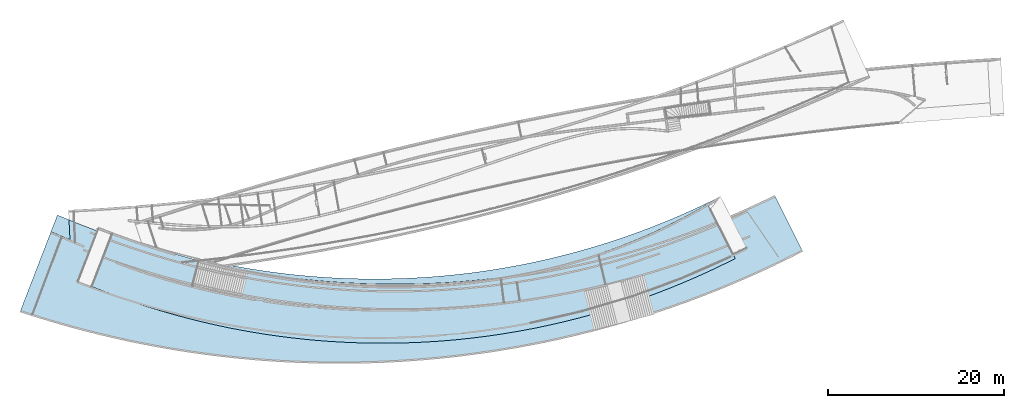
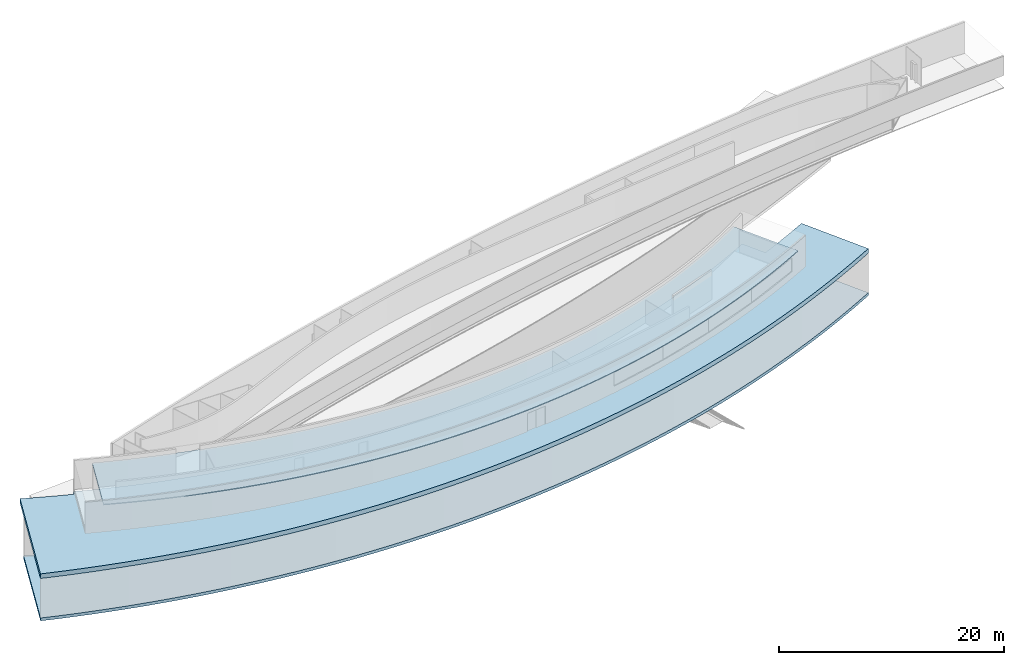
# Not in any storey, part 1 of 14: 3 slabs.
"""IFC2X3 model written with IfcOpenShell, lengths in millimetres."""

from ifc_helpers import new_model, entity, si_unit, converted_unit, point, direction, frame, frame_2d, origin_with_axes, place, context, project, spatial, polyline, circle_curve, trimmed, segment, composite_curve, outline, extrude, material, layer, layer_set, layer_usage, type_object, element, save


model = new_model("IFC2X3")

# Units and contexts
model_context = context("Model", 3, precision=1.0, world=origin_with_axes(), true_north=direction((0.0, 1.0)))
ifc_project = project(units=[si_unit("LENGTHUNIT", "METRE", prefix="MILLI"), converted_unit("PLANEANGLEUNIT", "DEGREE", entity("IfcRatioMeasure", 0.017453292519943), si_unit("PLANEANGLEUNIT", "RADIAN"), dimensions=[0, 0, 0, 0, 0, 0, 0])], contexts=[model_context])

# Site
site_placement = place(None, origin_with_axes())
site = spatial("IfcSite", under=ifc_project, at=site_placement, Name="Site", CompositionType="ELEMENT")

# Slabs
ifc_material_1 = material(Name="Slab layer 1")
ifc_layer_1 = layer(ifc_material_1, 100.0)
ifc_layer_set_1 = layer_set([ifc_layer_1], Name="HOKI slab")
ifc_layer_usage_1 = layer_usage(ifc_layer_set_1, "AXIS3", "POSITIVE", 0.0)
slab_type_1 = type_object("IfcSlabType", Name="HOKI slab", PredefinedType="FLOOR", material=ifc_layer_set_1)
slab_1_placement = place(site_placement, frame((-14063.8217207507, -7514.16167539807, 12350.0), z_axis=(0.0, 0.0, 1.0), x_axis=(0.360286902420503, 0.932841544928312, 0.0)))
element("IfcSlab", 1, at=slab_1_placement, inside=site, type_object=slab_type_1, material=ifc_layer_usage_1, ObjectType="HOKI slab", PredefinedType="FLOOR", context=model_context, shape_type="SweptSolid", body=[
    extrude(outline(composite_curve([segment(polyline([(-10458.3270371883, -33514.7553952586), (-16955.7582916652, -33514.7553952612)]), True, "CONTINUOUS"), segment(trimmed(circle_curve(frame_2d((71112.4195738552, -32088.0683738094), x_axis=(-0.999868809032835, -0.016197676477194)), 88079.7331308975), [point((-16955.7582916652, -33514.7553952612))], [point((12339.0505881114, 33514.7553952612))], False, "CARTESIAN"), True, "CONTINUOUS"), segment(polyline([(12339.0505881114, 33514.7553952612), (16967.3135570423, 28364.0818540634)]), True, "CONTINUOUS"), segment(polyline([(16967.3135570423, 28364.0818540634), (16541.683747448, 28026.2647282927), (16119.1963964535, 27684.9993166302), (15699.8018015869, 27340.2525765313), (15283.4502603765, 26991.9914654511), (14870.0920703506, 26640.1829408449), (14459.6775290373, 26284.793960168), (14052.1569339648, 25925.7914808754), (13647.4805826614, 25563.1424604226), (13240.2612243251, 25191.9019320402), (12836.4644827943, 24817.385396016), (12436.0400156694, 24439.5585375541), (12038.9374805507, 24058.3870418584), (11645.1065350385, 23673.8365941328), (11254.4968367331, 23285.8728795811), (10867.0580432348, 22894.4615834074), (10482.739812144, 22499.5683908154), (10107.1042689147, 22107.0674986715), (9734.93418778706, 21711.6614478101), (9366.1832446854, 21313.3175573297), (9000.80511553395, 20912.0031463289), (8638.75347625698, 20507.685533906), (8279.98200277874, 20100.3320391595), (7924.4443710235, 19689.9099811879), (7572.09425691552, 19276.3866790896), (7218.11723219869, 18853.987336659), (6867.80871181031, 18428.8996435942), (6521.1227234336, 18001.0898823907), (6178.01329475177, 17570.5243355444), (5838.43445344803, 17137.1692855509), (5502.34022720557, 16700.991014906), (5169.68464370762, 16261.9558061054), (4840.42173063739, 15820.0299416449), (4519.27695610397, 15381.7406202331), (4201.75362512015, 14941.1300742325), (3887.8102380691, 14498.1665008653), (3577.40529533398, 14052.8180973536), (3270.49729729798, 13605.0530609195), (2967.04474434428, 13154.8395887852), (2667.00613685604, 12702.1458781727), (2370.33997521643, 12246.9401263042), (2073.09324069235, 11783.0283992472), (1779.59307904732, 11317.0278490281), (1489.7991083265, 10848.9059831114), (1203.67094657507, 10378.6303089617), (921.16821183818, 9906.16833404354), (642.250522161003, 9431.48756582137), (366.8774955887, 8954.55551175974), (95.0087501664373, 8475.33967932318), (-169.686674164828, 8000.5144518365), (-430.747532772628, 7523.93270771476), (-688.209713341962, 7045.56397294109), (-942.10910355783, 6565.37777349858), (-1192.48159110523, 6083.34363537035), (-1439.36306366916, 5599.43108453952), (-1682.78940893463, 5113.60964698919), (-1922.79651458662, 4625.84884870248), (-2162.32529185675, 4130.04360438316), (-2398.16245813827, 3632.70775143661), (-2630.34223591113, 3133.81047886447), (-2858.89884765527, 2633.32097566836), (-3083.86651585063, 2131.20843084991), (-3305.27946297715, 1627.44203341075), (-3523.17191151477, 1121.9909723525), (-3737.57808394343, 614.824436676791), (-3945.93241502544, 112.238133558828), (-4150.74275804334, -391.596869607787), (-4352.03917292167, -896.709404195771), (-4549.851719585, -1403.12830157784), (-4744.21045795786, -1910.88239312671), (-4935.14544796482, -2420.00051021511), (-5122.68674953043, -2930.51148421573), (-5306.86442257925, -3442.44414650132), (-5489.61921267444, -3961.31696264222), (-5668.82646299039, -4481.23250371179), (-5844.5142623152, -5002.21959842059), (-6016.71069943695, -5524.30707547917), (-6185.44386314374, -6047.52376359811), (-6350.74184222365, -6571.89849148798), (-6512.63272546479, -7097.46008785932), (-6671.14460165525, -7624.23738142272), (-6824.71482613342, -8146.78904398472), (-6974.89532392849, -8670.15434305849), (-7121.71056155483, -9194.36027794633), (-7265.18500552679, -9719.43384795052), (-7405.34312235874, -10245.4020523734), (-7542.20937856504, -10772.2918905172), (-7675.80824066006, -11300.1303616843), (-7806.16417515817, -11828.9444651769), (-7934.36254911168, -12363.2517592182), (-8059.20662007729, -12898.1926416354), (-8180.71878222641, -13433.7938081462), (-8298.92142973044, -13970.0819544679), (-8413.83695676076, -14507.0837763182), (-8525.48775748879, -15044.8259694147), (-8633.89622608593, -15583.3352294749), (-8739.08475672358, -16122.6382522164), (-8840.28257299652, -16658.5017914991), (-8938.27639033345, -17194.8169239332), (-9033.08558674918, -17731.608738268), (-9124.72954025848, -18268.902323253), (-9213.22762887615, -18806.7227676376), (-9298.59923061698, -19345.0951601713), (-9380.86372349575, -19884.0445896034), (-9460.04048552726, -20423.5961446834), (-9536.58722938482, -20966.963604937), (-9609.99233586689, -21510.6295967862), (-9680.27315312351, -22054.6186583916), (-9747.44702930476, -22598.955327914), (-9811.53131256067, -23143.6641435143), (-9872.5433510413, -23688.7696433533), (-9930.50049289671, -24234.2963655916), (-9985.42008627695, -24780.2688483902), (-10037.059583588, -25323.9088211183), (-10085.6897217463, -25867.7032818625), (-10131.325404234, -26411.6754234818), (-10173.9815345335, -26955.8484388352), (-10213.673016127, -27500.2455207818), (-10250.4147524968, -28044.8898621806), (-10284.221647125, -28589.8046558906), (-10315.108603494, -29135.0130947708), (-10343.1719334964, -29682.2298752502), (-10368.3069486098, -30229.4734256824), (-10390.5262311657, -30776.7662192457), (-10409.8423634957, -31324.130729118), (-10426.2679279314, -31871.5894284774), (-10439.8155068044, -32419.164790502), (-10450.4976824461, -32966.8792883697), (-10458.3270371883, -33514.7553952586)]), True, "CONTINUOUS")], self_intersect="UNKNOWN")), frame((0.0, 0.0, 0.0), z_axis=(0.0, 0.0, -1.0), x_axis=(1.0, 0.0, 0.0)), (0.0, 0.0, -1.0), 100.0),
])
ifc_material_2 = material(Name="Slab layer 1")
ifc_layer_2 = layer(ifc_material_2, 500.0)
ifc_layer_set_2 = layer_set([ifc_layer_2], Name="HOKI 1FB UP")
ifc_layer_usage_2 = layer_usage(ifc_layer_set_2, "AXIS3", "POSITIVE", 0.0)
slab_type_2 = type_object("IfcSlabType", Name="HOKI 1FB UP", PredefinedType="FLOOR", material=ifc_layer_set_2)
slab_2_placement = place(site_placement, frame((-16891.8602213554, -7138.27778592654, 8999.99890100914), z_axis=(0.0, 0.0, 1.0), x_axis=(-0.896421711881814, -0.443202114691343, 0.0)))
element("IfcSlab", 2, at=slab_2_placement, inside=site, type_object=slab_type_2, material=ifc_layer_usage_2, ObjectType="HOKI 1FB UP", PredefinedType="FLOOR", context=model_context, shape_type="SweptSolid", body=[
    extrude(outline(composite_curve([segment(polyline([(29417.524967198, 16993.4711116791), (29113.0791956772, 17273.1666766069)]), True, "CONTINUOUS"), segment(trimmed(circle_curve(frame_2d((-34954.2730125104, 76132.1029652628), x_axis=(0.736406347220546, -0.676539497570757)), 87000.0000000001), [point((29113.0791956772, 17273.1666766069))], [point((-35751.3160399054, -10864.2459375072))], False, "CARTESIAN"), True, "CONTINUOUS"), segment(polyline([(-35751.3160399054, -10864.2459375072), (-35780.3892998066, -13334.4281621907)]), True, "CONTINUOUS"), segment(polyline([(-35780.3892998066, -13334.4281621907), (-36471.9214868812, -13371.3644718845), (-37163.4365010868, -13403.3711048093), (-37854.9867978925, -13430.4495538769), (-38546.6248327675, -13452.6013119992), (-39238.4030611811, -13469.8278720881), (-39930.3739386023, -13482.1307270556), (-40622.5899205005, -13489.5113698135), (-41315.1034623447, -13491.9712932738)]), True, "CONTINUOUS"), segment(polyline([(-41315.1034623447, -13491.9712932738), (-41351.0991119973, -20597.4717176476)]), True, "CONTINUOUS"), segment(polyline([(-41351.0991119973, -20597.4717176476), (-40639.0306437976, -20606.3051478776), (-39927.1253084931, -20610.7351467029), (-39215.3423035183, -20610.7613329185), (-38503.6408263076, -20606.3833253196), (-37791.9800742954, -20597.6007427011), (-37080.3192449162, -20584.4132038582), (-36368.6175356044, -20566.8203275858), (-35656.8341437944, -20544.8217326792), (-34938.9526639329, -20518.1747786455), (-34221.4606801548, -20487.0605764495), (-33504.3163780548, -20451.4766580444), (-32787.477943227, -20411.4205553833), (-32070.9035612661, -20366.8898004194), (-31354.5514177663, -20317.8819251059), (-30638.3796983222, -20264.394461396), (-29922.3465885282, -20206.4249412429), (-29212.3807398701, -20144.5081990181), (-28503.0152492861, -20078.2193637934), (-27794.2094612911, -20007.5539999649), (-27085.9227203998, -19932.5076719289), (-26378.114371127, -19853.0759440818), (-25670.7437579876, -19769.2543808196), (-24963.7702254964, -19681.0385465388), (-24257.1531181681, -19588.4240056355), (-23546.7255373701, -19490.8244436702), (-22837.1256171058, -19388.8339202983), (-22128.3122138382, -19282.4458657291), (-21420.2441840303, -19171.6537101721), (-20712.8803841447, -19056.4508838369), (-20006.1796706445, -18936.8308169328), (-19300.1008999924, -18812.7869396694), (-18594.6029286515, -18684.3126822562), (-17892.6795349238, -18551.9812895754), (-17191.7923893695, -18415.3393996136), (-16491.9012029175, -18274.3785062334), (-15792.9656864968, -18129.0901032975), (-15094.9455510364, -17979.4656846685), (-14397.8005074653, -17825.4967442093), (-13701.4902667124, -17667.1747757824), (-13005.9745397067, -17504.4912732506), (-12308.8952296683, -17336.8707065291), (-11613.0748942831, -17164.9648506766), (-10918.4732710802, -16988.763089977), (-10225.050097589, -16808.2548087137), (-9532.76511133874, -16623.4293911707), (-8841.57804985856, -16434.2762216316), (-8151.44865067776, -16240.7846843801), (-7462.33665132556, -16042.9441636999), (-6776.52181886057, -15841.4314065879), (-6092.16834362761, -15635.7263008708), (-5409.23689489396, -15425.8163546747), (-4727.68814192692, -15211.6890761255), (-4047.48275399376, -14993.3319733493), (-3368.58140036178, -14770.732554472), (-2690.94475029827, -14543.8783276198), (-2014.53347307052, -14312.7568009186), (-1338.73429452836, -14077.1512269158), (-664.60720053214, -13837.4209424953), (7.88661415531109, -13593.5514642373), (678.785954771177, -13345.5283087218), (1348.12962655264, -13093.3369925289), (2015.95643473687, -12836.9630322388), (2682.30518456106, -12576.3919444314), (3347.21468126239, -12311.6092456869), (4010.46846312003, -12042.7026469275), (4671.84719378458, -11769.7595349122), (5331.38891103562, -11492.7635157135), (5989.13165265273, -11211.6981954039), (6645.11345641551, -10926.5471800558), (7299.37236010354, -10637.2940757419), (7951.94640149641, -10343.9224885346), (8602.87361837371, -10046.4160245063), (9251.14013905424, -9745.24867244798), (9897.33866070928, -9440.15259241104), (10541.5062224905, -9131.10958902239), (11183.6798635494, -8818.10146690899), (11823.8966230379, -8501.11003069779), (12462.1935401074, -8180.11708501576), (13098.6076539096, -7855.10443448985), (13733.1760035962, -7526.053883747), (14367.2559744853, -7192.24460149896), (14999.0637368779, -6854.59543946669), (15628.6356482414, -6513.08623482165), (16256.0080660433, -6167.69682473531), (16881.217347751, -5818.40704637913), (17504.2998508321, -5465.19673692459), (18125.2919327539, -5108.04573354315), (18744.229950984, -4746.93387340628), (19358.6281886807, -4383.34169123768), (19970.5848705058, -4016.0545542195), (20580.1349165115, -3645.05076115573), (21187.3132467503, -3270.30861085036), (21792.1547812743, -2891.80640210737), (22394.6944401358, -2509.52243373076), (22994.9671433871, -2123.43500452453), (23593.0078110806, -1733.52241329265), (24191.5779548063, -1337.94646568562), (24787.4992490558, -938.766267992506), (25380.8059980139, -535.958059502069), (25971.5325058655, -129.498079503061), (26559.7130767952, 280.637432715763), (27145.382014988, 694.472237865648), (27728.5736246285, 1112.03009665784), (28309.3222099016, 1533.33476980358), (28883.8644986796, 1955.60331754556), (29455.617641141, 2381.29772698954), (30024.6141087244, 2810.44296453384), (30590.8863728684, 3243.06399657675), (31154.4669050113, 3679.18578951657), (31715.3881765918, 4118.83330975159), (32273.6826590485, 4562.03152368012), (32829.3828238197, 5008.80539770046), (33386.4430426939, 5462.39613394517), (33940.5020903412, 5919.31864436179), (34491.5918627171, 6379.60007932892), (35039.7442557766, 6843.26758922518), (35584.9911654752, 7310.34832442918), (36127.364487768, 7780.86943531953), (36666.8961186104, 8254.85807227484), (37203.6179539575, 8732.34138567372), (37732.7209229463, 9208.96123632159), (38258.7164991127, 9688.7053235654), (38781.6344039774, 10171.6016042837), (39301.5043590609, 10657.678035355), (39818.356085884, 11146.9625736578), (40332.2193059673, 11639.4831760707), (40843.1237408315, 12135.2677994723), (41351.0991119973, 12634.3444007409)]), True, "CONTINUOUS"), segment(polyline([(41351.0991119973, 12634.3444007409), (32667.7548995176, 20611.2988181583)]), True, "CONTINUOUS"), segment(polyline([(32667.7548995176, 20611.2988181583), (32271.288350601, 20150.0877995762), (31872.0658600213, 19691.4961444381), (31470.0636568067, 19235.4973932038), (31065.2579699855, 18782.065086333), (30657.6250285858, 18331.1727642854), (30247.1410616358, 17882.7939675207), (29833.7822981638, 17436.9022364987), (29417.524967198, 16993.4711116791)]), True, "CONTINUOUS")], self_intersect="UNKNOWN")), frame((0.0, 0.0, 0.0), z_axis=(0.0, -8.54612e-08, -0.999999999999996), x_axis=(1.0, 0.0, 0.0)), (0.0, 8.54612e-08, -0.999999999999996), 500.000000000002),
])
ifc_material_3 = material(Name="Slab layer 1")
ifc_layer_3 = layer(ifc_material_3, 320.0)
ifc_layer_set_3 = layer_set([ifc_layer_3], Name="HOKI 1FB")
ifc_layer_usage_3 = layer_usage(ifc_layer_set_3, "AXIS3", "POSITIVE", 0.0)
slab_type_3 = type_object("IfcSlabType", Name="HOKI 1FB", PredefinedType="FLOOR", material=ifc_layer_set_3)
slab_3_placement = place(site_placement, frame((-14265.9949990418, -8477.71334650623, 4400.0), z_axis=(0.0, 0.0, 1.0), x_axis=(-0.360305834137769, -0.932834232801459, 0.0)))
element("IfcSlab", 3, at=slab_3_placement, inside=site, type_object=slab_type_3, material=ifc_layer_usage_3, ObjectType="HOKI 1FB", PredefinedType="FLOOR", context=model_context, shape_type="SweptSolid", body=[
    extrude(outline(composite_curve([segment(polyline([(11851.7903827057, -40211.2343276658), (11918.783722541, -37867.5378411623)]), True, "CONTINUOUS"), segment(polyline([(11918.783722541, -37867.5378411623), (9850.78603564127, -38786.880040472)]), True, "CONTINUOUS"), segment(polyline([(9850.78603564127, -38786.880040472), (9862.46256828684, -38143.8529561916), (9869.89007350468, -37500.9731456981), (9873.06833784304, -36858.198561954), (9871.99714785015, -36215.4871579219), (9866.67629007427, -35572.7968865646), (9857.10555106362, -34930.0857008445), (9843.28471736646, -34287.3115537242), (9825.21357553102, -33644.4323981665), (9802.65977186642, -32995.3622092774), (9775.78707043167, -32346.6733089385), (9744.59295672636, -31698.3224709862), (9709.07491625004, -31050.2664692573), (9669.23043450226, -30402.4620775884), (9625.0569969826, -29754.8660698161), (9576.5520891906, -29107.435219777), (9523.71319662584, -28460.1263013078), (9467.14675237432, -27819.5650806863), (9406.37186757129, -27179.6006823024), (9341.38387697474, -26540.1913336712), (9272.17811534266, -25901.2952623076), (9198.74991743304, -25262.8706957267), (9121.09461800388, -24624.8758614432), (9039.20755181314, -23987.2689869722), (8953.08405361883, -23350.0082998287), (8862.11861098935, -22708.9308619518), (8766.92458242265, -22068.6847216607), (8667.49495161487, -21429.2275480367), (8563.82270226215, -20790.517010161), (8455.90081806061, -20152.5107771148), (8343.72228270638, -19515.1665179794), (8227.28007989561, -18878.441901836), (8106.56719332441, -18242.2945977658), (7982.22255951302, -17609.9224303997), (7853.73813251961, -16978.5944100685), (7721.10478797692, -16348.269220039), (7584.31340151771, -15718.9055435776), (7443.3548487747, -15090.462063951), (7298.22000538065, -14462.8974644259), (7148.8997469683, -13836.1704282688), (6995.38494917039, -13210.2396387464), (6837.08703225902, -12582.807569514), (6674.67757158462, -11956.6485439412), (6508.14512588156, -11331.7212906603), (6337.47825388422, -10707.9845383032), (6162.66551432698, -10085.3970155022), (5983.69546594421, -9463.9174508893), (5800.55666747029, -8843.50457309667), (5613.2376776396, -8224.11711075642), (5422.31805820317, -7607.60770503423), (5227.38133377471, -6992.57970171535), (5028.41399509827, -6378.99281336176), (4825.40253291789, -5766.80675253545), (4618.33343797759, -5155.9812317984), (4407.19320102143, -4546.4759637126), (4191.96831279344, -3938.25066084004), (3972.64526403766, -3331.2650357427), (3749.03321990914, -2725.00932145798), (3521.47880057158, -2120.45030030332), (3289.96632207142, -1517.54831385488), (3054.48010045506, -916.263703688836), (2815.00445176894, -316.556811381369), (2571.52369205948, 281.612021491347), (2324.0221373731, 878.282453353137), (2072.48410375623, 1473.49414262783), (1816.95475428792, 2067.1409872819), (1557.57716699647, 2658.88346706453), (1294.33356482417, 3248.76037485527), (1027.20617071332, 3836.81050353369), (756.177207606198, 4423.07264597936), (481.228898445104, 5007.58559507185), (202.343466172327, 5590.38814369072), (-80.4968662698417, 6171.51908471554), (-366.721892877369, 6749.83393915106), (-656.676813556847, 7326.04988451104), (-950.381343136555, 7900.20453475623), (-1247.85519644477, 8472.33550384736), (-1549.11808830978, 9042.48040574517), (-1854.18973355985, 9610.67685441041), (-2163.08984702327, 10176.9624638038), (-2475.83814352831, 10741.3748478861), (-2793.27887668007, 11305.4008414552), (-3114.35448920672, 11867.1186527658), (-3439.08686203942, 12426.565127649), (-3767.49787610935, 12983.777111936), (-4099.60941234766, 13538.7914514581), (-4435.44335168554, 14091.6449920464), (-4775.02157505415, 14642.3745795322), (-5118.36596338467, 15191.0170597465), (-5463.80264102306, 15734.9542876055), (-5812.71597067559, 16276.4162696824), (-6165.12944317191, 16815.4381687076), (-6521.06654934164, 17352.0551474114), (-6880.55078001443, 17886.302368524), (-7243.60562601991, 18418.2149947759), (-7610.2545781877, 18947.8281888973), (-7980.52112734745, 19475.1771136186), (-8356.47278143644, 20003.143666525), (-8735.80368830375, 20528.4219881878), (-9118.53962084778, 21051.046544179), (-9504.70635196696, 21571.0518000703), (-9894.3296545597, 22088.4722214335), (-10287.4353015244, 22603.3422738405), (-10684.0490657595, 23115.6964228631), (-11084.1967201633, 23625.5691340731), (-11484.7827127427, 24129.0943854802), (-11888.5544014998, 24629.7980690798), (-12295.5387559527, 25127.71252072), (-12705.7627456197, 25622.8700762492), (-13119.2533400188, 26115.3030715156), (-13536.0375086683, 26605.0438423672), (-13956.1422210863, 27092.1247246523), (-14379.5944467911, 27576.5780542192), (-14809.9901515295, 28062.4351045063), (-15243.469868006, 28545.2520355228), (-15680.063003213, 29025.0605231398), (-16119.7989641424, 29501.8922432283), (-16562.7071577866, 29975.7788716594), (-17008.8169911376, 30446.7520843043), (-17458.1578711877, 30914.843557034), (-17910.759204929, 31380.0849657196), (-18361.8142427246, 31837.6314282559), (-18815.7297431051, 32292.0438483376), (-19272.5358162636, 32743.3513959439), (-19732.2625723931, 33191.5832410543), (-20194.9401216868, 33636.7685536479), (-20660.5985743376, 34078.936503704), (-21129.2680405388, 34518.116261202), (-21600.9786304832, 34954.336996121)]), True, "CONTINUOUS"), segment(polyline([(-21600.9786304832, 34954.336996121), (-16820.4410565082, 40211.3221084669)]), True, "CONTINUOUS"), segment(polyline([(-16820.4410565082, 40211.3221084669), (-16290.0834945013, 39736.0954116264), (-15762.8250950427, 39257.7363040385), (-15238.6360682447, 38776.2169010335), (-14717.4866242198, 38291.5093179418), (-14199.3469730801, 37803.5856700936), (-13684.1873249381, 37312.4180728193), (-13171.977889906, 36817.9786414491), (-12662.6888780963, 36320.2394913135), (-12152.0538514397, 35814.9517026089), (-11644.727859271, 35306.6376473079), (-11140.6817783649, 34795.2672194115), (-10639.8864854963, 34280.8103129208), (-10142.3128574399, 33763.2368218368), (-9647.93177097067, 33242.5166401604), (-9156.71410286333, 32718.6196618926), (-8668.63072989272, 32191.5157810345), (-8187.68561614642, 31665.6095343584), (-7710.14044796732, 31136.8897461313), (-7235.96828664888, 30605.3256454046), (-6765.14219348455, 30070.8864612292), (-6297.63522976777, 29533.5414226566), (-5833.420456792, 28993.2597587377), (-5372.47093585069, 28450.0106985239), (-4914.75972823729, 27903.7634710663), (-4457.61491245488, 27351.267305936), (-4004.05019749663, 26796.0974798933), (-3554.03972907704, 26238.2213201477), (-3107.55765291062, 25677.6061539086), (-2664.57811471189, 25114.2193083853), (-2225.07526019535, 24548.0281107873), (-1789.02323507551, 23978.9998883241), (-1356.39618506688, 23407.1019682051), (-929.011271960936, 22834.7822648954), (-505.305627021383, 22259.9892739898), (-85.2553352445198, 21682.6894748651), (331.163518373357, 21102.8493468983), (743.974848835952, 20520.4353694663), (1153.20257114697, 19935.4140219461), (1558.87060031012, 19347.7517837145), (1961.00285132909, 18757.4151341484), (2360.9465011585, 18162.3849499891), (2757.06391656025, 17565.0507216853), (3149.37756576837, 16965.3773930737), (3537.90991701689, 16363.3299079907), (3922.68343853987, 15758.8732102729), (4303.72059857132, 15151.9722437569), (4681.04386534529, 14542.5919522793), (5054.67570709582, 13930.6972796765), (5423.39542254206, 13318.328363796), (5788.20273413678, 12703.8607598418), (6149.11815475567, 12087.258660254), (6506.16219727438, 11468.4862574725), (6859.35537456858, 10847.5077439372), (7208.71819951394, 10224.287312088), (7554.27118498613, 9598.789154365), (7896.03484386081, 8970.97746320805), (8234.31415810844, 8340.27774598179), (8568.57164326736, 7707.67171329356), (8898.82607789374, 7073.12244647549), (9225.09624054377, 6436.59302685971), (9547.40090977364, 5798.04653577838), (9865.75886413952, 5157.44605456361), (10180.1888821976, 4514.75466454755), (10490.7097425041, 3869.93544706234), (10797.2210803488, 3223.20006648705), (11099.6207954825, 2574.76063586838), (11397.9258087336, 1924.57934890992), (11692.1530409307, 1272.61839931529), (11982.3194129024, 618.839980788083), (12268.4418454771, -36.7937129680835), (12550.5372594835, -694.320488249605), (12828.62257575, -1353.77815135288), (13102.2718153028, -2014.13171762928), (13371.7402608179, -2675.97942498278), (13637.0428789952, -3339.35973073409), (13898.1946365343, -4004.31109220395), (14155.2105001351, -4670.87196671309), (14408.1054364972, -5339.08081158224), (14656.8944123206, -6008.97608413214), (14901.5923943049, -6680.5962416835), (15142.7114557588, -7355.39078398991), (15379.5594422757, -8031.47588658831), (15612.1494875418, -8708.89099456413), (15840.4947252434, -9387.67555300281), (16064.6082890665, -10067.8690069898), (16284.5033126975, -10749.5108016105), (16500.1929298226, -11432.6403819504), (16711.6902741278, -12117.2971930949), (16918.1664251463, -12800.7092684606), (17120.3448355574, -13485.1906106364), (17318.2365397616, -14170.7808251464), (17511.8525721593, -14857.5195175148), (17701.2039671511, -15545.4462932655), (17886.3017591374, -16234.6007579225), (18067.1569825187, -16925.0225170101), (18243.7806716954, -17616.7511760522), (18416.9628809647, -18313.0086711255), (18585.7560577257, -19010.128396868), (18750.1693895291, -19708.1510588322), (18910.2120639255, -20407.1173625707), (19065.8932684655, -21107.0680136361), (19217.2221906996, -21808.0437175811), (19364.2080181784, -22510.0851799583), (19506.8599384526, -23213.2331063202), (19644.2893252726, -23912.892114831), (19777.347046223, -24613.1870706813), (19906.0401235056, -25314.1583274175), (20030.3755793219, -26015.8462385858), (20150.3604358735, -26718.2911577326), (20266.0017153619, -27421.5334384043), (20377.3064399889, -28125.6134341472), (20484.2816319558, -28830.5714985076), (20587.6466198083, -29541.4697698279), (20686.5474542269, -30252.7912602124), (20780.989256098, -30964.5775422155), (20870.9771463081, -31676.8701883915), (20956.5162457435, -32389.7107712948), (21037.6116752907, -33103.1408634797), (21114.2685558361, -33817.2020375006), (21186.4920082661, -34531.935865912), (21253.6889232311, -35240.8794500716), (21316.4838653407, -35950.0215565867), (21374.879808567, -36659.4028808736), (21428.8797268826, -37369.0641183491), (21478.4865942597, -38079.0459644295), (21523.7033846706, -38789.3891145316), (21564.5330720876, -39500.1342640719), (21600.9786304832, -40211.3221084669)]), True, "CONTINUOUS"), segment(polyline([(21600.9786304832, -40211.3221084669), (11851.7903827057, -40211.2343276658)]), True, "CONTINUOUS")], self_intersect="UNKNOWN")), origin_with_axes(), (0.0, 0.0, 1.0), 320.0),
])

save(model, "model.ifc")
